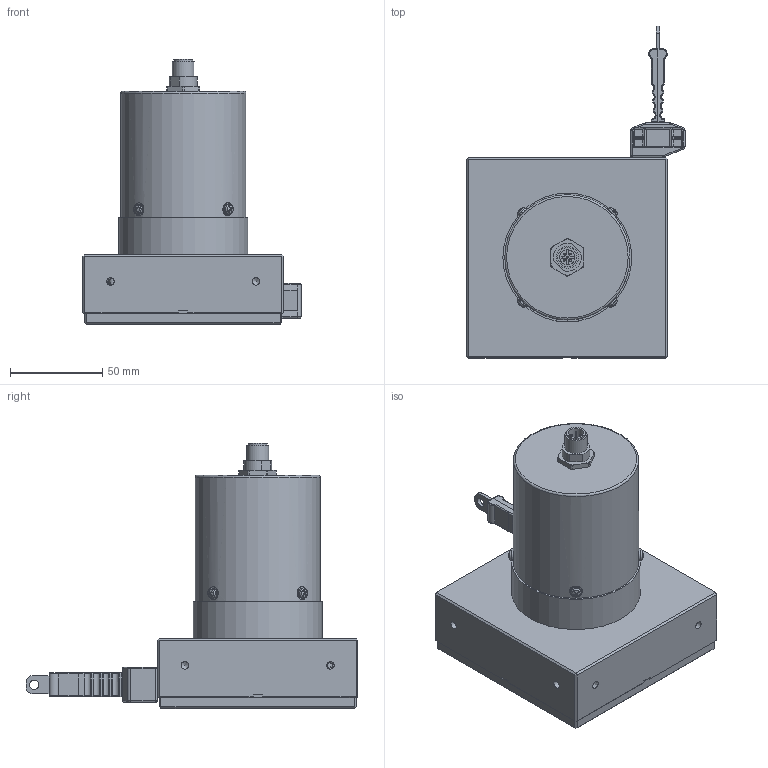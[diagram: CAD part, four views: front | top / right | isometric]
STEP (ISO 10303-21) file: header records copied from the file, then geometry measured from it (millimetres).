
FILE_DESCRIPTION((''),'2;1');
FILE_NAME('K:\Daten\wb12-4000.stp','2013-08-23T14:45:48',('kamp'),(''),'Autodesk Inventor 2008','Autodesk Inventor 2008','');
FILE_SCHEMA(('AUTOMOTIVE_DESIGN { 1 0 10303 214 1 1 1 1 }'));
Length unit declared in the file: millimetre
Products named in the file (1): Bauteil10
Bounding box: 118.4 x 180.3 x 144.1 mm (x, y, z)
Volume: 788642.3 mm3; surface area: 65318.9 mm2
Topology: 1 solids, 1 shells, 641 faces, 1531 edges, 908 vertices
Faces by surface type: plane 314, cylinder 138, bspline 125, sphere 43, torus 11, cone 10
Full cylindrical faces by diameter (mm): 1 x5, 2 x3, 7 x7, 8.3 x1, 10.4 x1, 12 x1, 68 x1, 70 x1
Entity records: 21082 total; most frequent: CARTESIAN_POINT 7023, ORIENTED_EDGE 2878, DIRECTION 2843, EDGE_CURVE 1439, AXIS2_PLACEMENT_3D 1011, VERTEX_POINT 892, VECTOR 821, LINE 821
